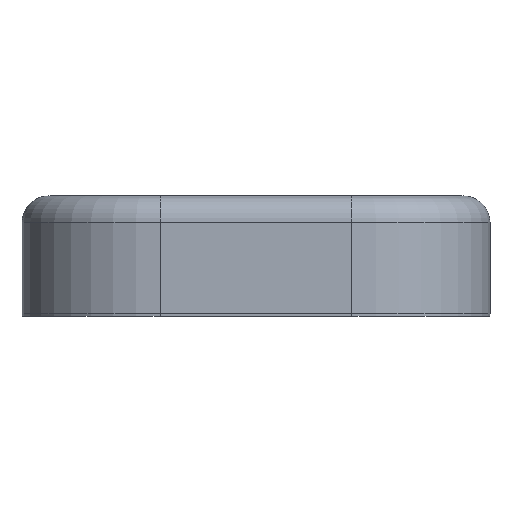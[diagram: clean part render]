
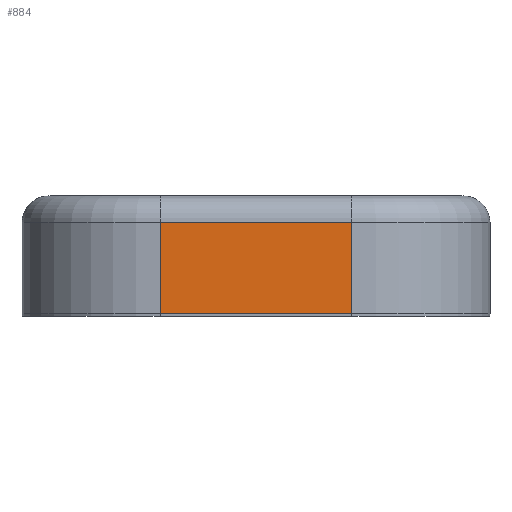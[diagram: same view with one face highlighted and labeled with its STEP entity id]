
A CAD part, front view. The second image highlights one B-rep face of the part: STEP entity #884.
In plain terms, the highlighted planar face has unit normal (0, -1, 0).
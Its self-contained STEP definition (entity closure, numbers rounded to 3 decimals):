
#44 = CYLINDRICAL_SURFACE('',#45,26.);
#45 = AXIS2_PLACEMENT_3D('',#46,#47,#48);
#46 = CARTESIAN_POINT('',(-18.,-42.,-13.6));
#47 = DIRECTION('',(0.,0.,1.));
#48 = DIRECTION('',(-1.,-0.,0.));
#209 = VERTEX_POINT('',#210);
#210 = CARTESIAN_POINT('',(-18.,-68.,-8.6));
#237 = EDGE_CURVE('',#209,#238,#240,.T.);
#238 = VERTEX_POINT('',#239);
#239 = CARTESIAN_POINT('',(-18.,-68.,8.6));
#240 = SURFACE_CURVE('',#241,(#245,#252),.PCURVE_S1.);
#241 = LINE('',#242,#243);
#242 = CARTESIAN_POINT('',(-18.,-68.,-13.6));
#243 = VECTOR('',#244,1.);
#244 = DIRECTION('',(0.,0.,1.));
#245 = PCURVE('',#44,#246);
#246 = DEFINITIONAL_REPRESENTATION('',(#247),#251);
#247 = LINE('',#248,#249);
#248 = CARTESIAN_POINT('',(1.571,0.));
#249 = VECTOR('',#250,1.);
#250 = DIRECTION('',(0.,1.));
#251 = ( GEOMETRIC_REPRESENTATION_CONTEXT(2) 
PARAMETRIC_REPRESENTATION_CONTEXT() REPRESENTATION_CONTEXT('2D SPACE',''
  ) );
#252 = PCURVE('',#253,#258);
#253 = PLANE('',#254);
#254 = AXIS2_PLACEMENT_3D('',#255,#256,#257);
#255 = CARTESIAN_POINT('',(-44.,-68.,-13.6));
#256 = DIRECTION('',(0.,1.,0.));
#257 = DIRECTION('',(0.,-0.,1.));
#258 = DEFINITIONAL_REPRESENTATION('',(#259),#263);
#259 = LINE('',#260,#261);
#260 = CARTESIAN_POINT('',(0.,26.));
#261 = VECTOR('',#262,1.);
#262 = DIRECTION('',(1.,0.));
#263 = ( GEOMETRIC_REPRESENTATION_CONTEXT(2) 
PARAMETRIC_REPRESENTATION_CONTEXT() REPRESENTATION_CONTEXT('2D SPACE',''
  ) );
#788 = CYLINDRICAL_SURFACE('',#789,5.);
#789 = AXIS2_PLACEMENT_3D('',#790,#791,#792);
#790 = CARTESIAN_POINT('',(18.,-63.,-8.6));
#791 = DIRECTION('',(-1.,-0.,-0.));
#792 = DIRECTION('',(0.,-1.,0.));
#874 = CYLINDRICAL_SURFACE('',#875,5.);
#875 = AXIS2_PLACEMENT_3D('',#876,#877,#878);
#876 = CARTESIAN_POINT('',(18.,-63.,8.6));
#877 = DIRECTION('',(-1.,-0.,-0.));
#878 = DIRECTION('',(0.,-1.,0.));
#884 = ADVANCED_FACE('',(#885),#253,.F.);
#885 = FACE_BOUND('',#886,.F.);
#886 = EDGE_LOOP('',(#887,#888,#911,#939));
#887 = ORIENTED_EDGE('',*,*,#237,.T.);
#888 = ORIENTED_EDGE('',*,*,#889,.F.);
#889 = EDGE_CURVE('',#890,#238,#892,.T.);
#890 = VERTEX_POINT('',#891);
#891 = CARTESIAN_POINT('',(18.,-68.,8.6));
#892 = SURFACE_CURVE('',#893,(#897,#904),.PCURVE_S1.);
#893 = LINE('',#894,#895);
#894 = CARTESIAN_POINT('',(18.,-68.,8.6));
#895 = VECTOR('',#896,1.);
#896 = DIRECTION('',(-1.,-0.,-0.));
#897 = PCURVE('',#253,#898);
#898 = DEFINITIONAL_REPRESENTATION('',(#899),#903);
#899 = LINE('',#900,#901);
#900 = CARTESIAN_POINT('',(22.2,62.));
#901 = VECTOR('',#902,1.);
#902 = DIRECTION('',(0.,-1.));
#903 = ( GEOMETRIC_REPRESENTATION_CONTEXT(2) 
PARAMETRIC_REPRESENTATION_CONTEXT() REPRESENTATION_CONTEXT('2D SPACE',''
  ) );
#904 = PCURVE('',#874,#905);
#905 = DEFINITIONAL_REPRESENTATION('',(#906),#910);
#906 = LINE('',#907,#908);
#907 = CARTESIAN_POINT('',(0.,0.));
#908 = VECTOR('',#909,1.);
#909 = DIRECTION('',(0.,1.));
#910 = ( GEOMETRIC_REPRESENTATION_CONTEXT(2) 
PARAMETRIC_REPRESENTATION_CONTEXT() REPRESENTATION_CONTEXT('2D SPACE',''
  ) );
#911 = ORIENTED_EDGE('',*,*,#912,.F.);
#912 = EDGE_CURVE('',#913,#890,#915,.T.);
#913 = VERTEX_POINT('',#914);
#914 = CARTESIAN_POINT('',(18.,-68.,-8.6));
#915 = SURFACE_CURVE('',#916,(#920,#927),.PCURVE_S1.);
#916 = LINE('',#917,#918);
#917 = CARTESIAN_POINT('',(18.,-68.,-13.6));
#918 = VECTOR('',#919,1.);
#919 = DIRECTION('',(0.,0.,1.));
#920 = PCURVE('',#253,#921);
#921 = DEFINITIONAL_REPRESENTATION('',(#922),#926);
#922 = LINE('',#923,#924);
#923 = CARTESIAN_POINT('',(0.,62.));
#924 = VECTOR('',#925,1.);
#925 = DIRECTION('',(1.,0.));
#926 = ( GEOMETRIC_REPRESENTATION_CONTEXT(2) 
PARAMETRIC_REPRESENTATION_CONTEXT() REPRESENTATION_CONTEXT('2D SPACE',''
  ) );
#927 = PCURVE('',#928,#933);
#928 = CYLINDRICAL_SURFACE('',#929,26.);
#929 = AXIS2_PLACEMENT_3D('',#930,#931,#932);
#930 = CARTESIAN_POINT('',(18.,-42.,-13.6));
#931 = DIRECTION('',(0.,0.,1.));
#932 = DIRECTION('',(1.,0.,-0.));
#933 = DEFINITIONAL_REPRESENTATION('',(#934),#938);
#934 = LINE('',#935,#936);
#935 = CARTESIAN_POINT('',(4.712,0.));
#936 = VECTOR('',#937,1.);
#937 = DIRECTION('',(-0.,1.));
#938 = ( GEOMETRIC_REPRESENTATION_CONTEXT(2) 
PARAMETRIC_REPRESENTATION_CONTEXT() REPRESENTATION_CONTEXT('2D SPACE',''
  ) );
#939 = ORIENTED_EDGE('',*,*,#940,.T.);
#940 = EDGE_CURVE('',#913,#209,#941,.T.);
#941 = SURFACE_CURVE('',#942,(#946,#953),.PCURVE_S1.);
#942 = LINE('',#943,#944);
#943 = CARTESIAN_POINT('',(18.,-68.,-8.6));
#944 = VECTOR('',#945,1.);
#945 = DIRECTION('',(-1.,-0.,-0.));
#946 = PCURVE('',#253,#947);
#947 = DEFINITIONAL_REPRESENTATION('',(#948),#952);
#948 = LINE('',#949,#950);
#949 = CARTESIAN_POINT('',(5.,62.));
#950 = VECTOR('',#951,1.);
#951 = DIRECTION('',(0.,-1.));
#952 = ( GEOMETRIC_REPRESENTATION_CONTEXT(2) 
PARAMETRIC_REPRESENTATION_CONTEXT() REPRESENTATION_CONTEXT('2D SPACE',''
  ) );
#953 = PCURVE('',#788,#954);
#954 = DEFINITIONAL_REPRESENTATION('',(#955),#959);
#955 = LINE('',#956,#957);
#956 = CARTESIAN_POINT('',(6.283,0.));
#957 = VECTOR('',#958,1.);
#958 = DIRECTION('',(-0.,1.));
#959 = ( GEOMETRIC_REPRESENTATION_CONTEXT(2) 
PARAMETRIC_REPRESENTATION_CONTEXT() REPRESENTATION_CONTEXT('2D SPACE',''
  ) );
